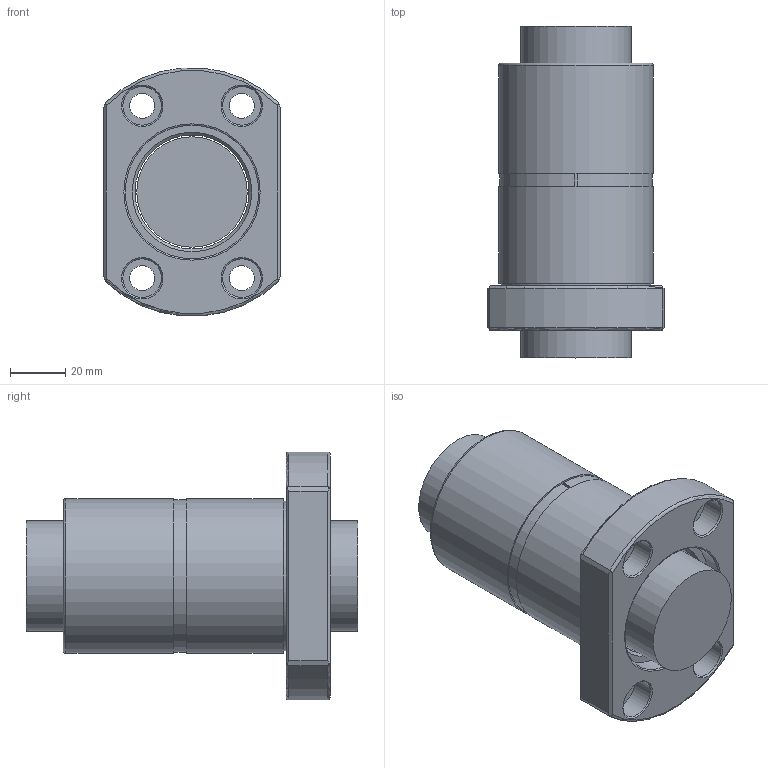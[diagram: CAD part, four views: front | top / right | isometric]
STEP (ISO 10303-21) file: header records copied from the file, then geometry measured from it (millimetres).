
FILE_DESCRIPTION(/* description */ (''),/* implementation_level */ '2;1');
FILE_NAME(/* name */ '4005.prt.step',/* time_stamp */ '2008-12-05T09:22:10+08:00',/* author */ (''),/* organization */ (''),/* preprocessor_version */ 'ST-DEVELOPER v11',/* originating_system */ 'SIEMENS UGS NX 6.0',/* authorisation */ '');
FILE_SCHEMA (('AUTOMOTIVE_DESIGN { 1 0 10303 214 1 1 1 1 }'));
Length unit declared in the file: millimetre
Products named in the file (1): 4005
Bounding box: 64 x 120 x 89.67 mm (x, y, z)
Volume: 287826.4 mm3; surface area: 62375.9 mm2
Topology: 5 solids, 5 shells, 75 faces, 162 edges, 107 vertices
Faces by surface type: plane 34, cylinder 24, cone 10, torus 7
Full cylindrical faces by diameter (mm): 9 x4, 14 x4, 39.95 x1, 41.2 x2, 44 x2, 48.3 x2, 54.003 x1, 56 x2
Entity records: 2102 total; most frequent: CARTESIAN_POINT 549, DIRECTION 320, ORIENTED_EDGE 242, AXIS2_PLACEMENT_3D 140, EDGE_LOOP 128, EDGE_CURVE 121, FACE_BOUND 98, VERTEX_POINT 97
